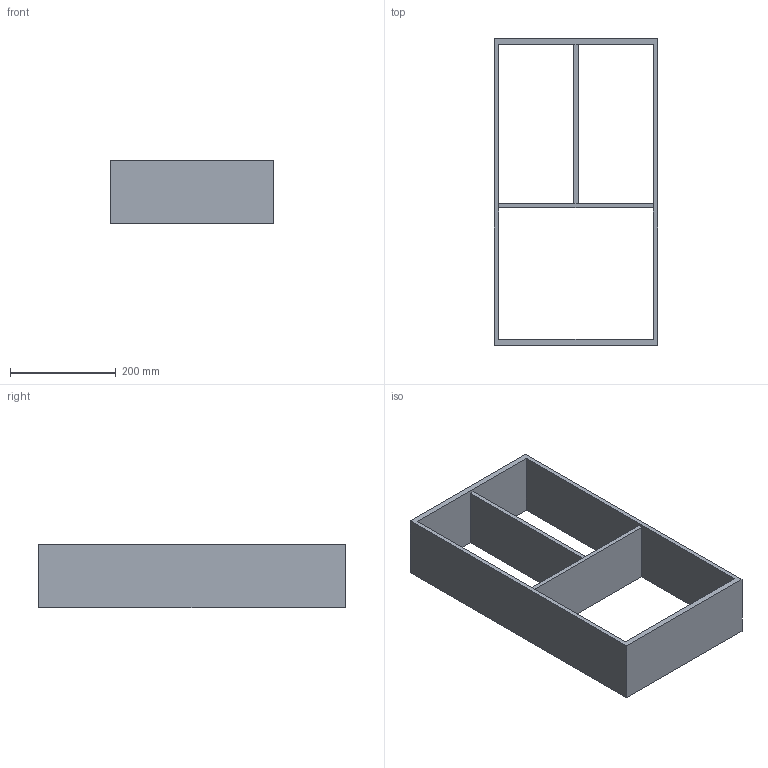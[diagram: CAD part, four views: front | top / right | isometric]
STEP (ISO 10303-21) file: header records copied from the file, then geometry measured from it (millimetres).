
FILE_DESCRIPTION (( 'STEP AP214' ), '1' );
FILE_NAME ('Vario Multi H120 NL600_B400_16 mm_Alu-Alu.step', '2010-10-08T09:48:13', ( 'grass' ), ( '' ), 'SwSTEP 2.0', 'SolidWorks 2010', '' );
FILE_SCHEMA (( 'AUTOMOTIVE_DESIGN' ));
Length unit declared in the file: millimetre
Products named in the file (1): Vario Multi H120 NL600_B400_16 mm_Alu-Alu
Bounding box: 308 x 579 x 120 mm (x, y, z)
Volume: 2422162.3 mm3; surface area: 588738.2 mm2
Topology: 1 solids, 1 shells, 18 faces, 48 edges, 32 vertices
Faces by surface type: plane 18
Entity records: 598 total; most frequent: CARTESIAN_POINT 99, ORIENTED_EDGE 96, DIRECTION 86, EDGE_CURVE 48, LINE 48, VECTOR 48, VERTEX_POINT 32, EDGE_LOOP 24
